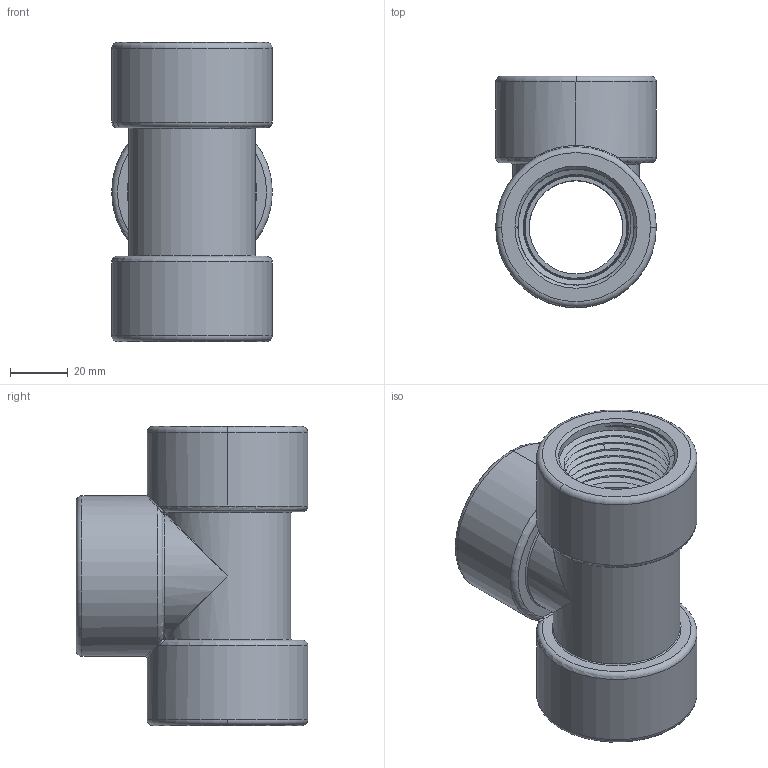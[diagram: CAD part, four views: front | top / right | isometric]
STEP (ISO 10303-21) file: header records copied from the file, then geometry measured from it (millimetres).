
FILE_DESCRIPTION(/* description */ ('Alibre Inc.'),/* implementation_level */ '2;1');
FILE_NAME(/* name */ 'export0',/* time_stamp */ '2019-09-16T10:03:12-04:00',/* author */ (''),/* organization */ (''),/* preprocessor_version */ 'ST-DEVELOPER v17',/* originating_system */ 'Alibre',/* authorisation */ '');
FILE_SCHEMA (('CONFIG_CONTROL_DESIGN'));
Length unit declared in the file: inch
Products named in the file (1): 200-62212-1000C
Bounding box: 55.55 x 80.08 x 103.4 mm (x, y, z)
Volume: 144669.5 mm3; surface area: 47436.6 mm2
Topology: 1 solids, 1 shells, 162 faces, 421 edges, 255 vertices
Faces by surface type: cone 62, bspline 51, cylinder 21, torus 14, plane 10, sphere 4
Full cylindrical faces by diameter (mm): 55.55 x1
Entity records: 50199 total; most frequent: CARTESIAN_POINT 47135, ORIENTED_EDGE 832, EDGE_CURVE 416, DIRECTION 308, VERTEX_POINT 259, B_SPLINE_CURVE_WITH_KNOTS 249, EDGE_LOOP 169, FACE_BOUND 169
